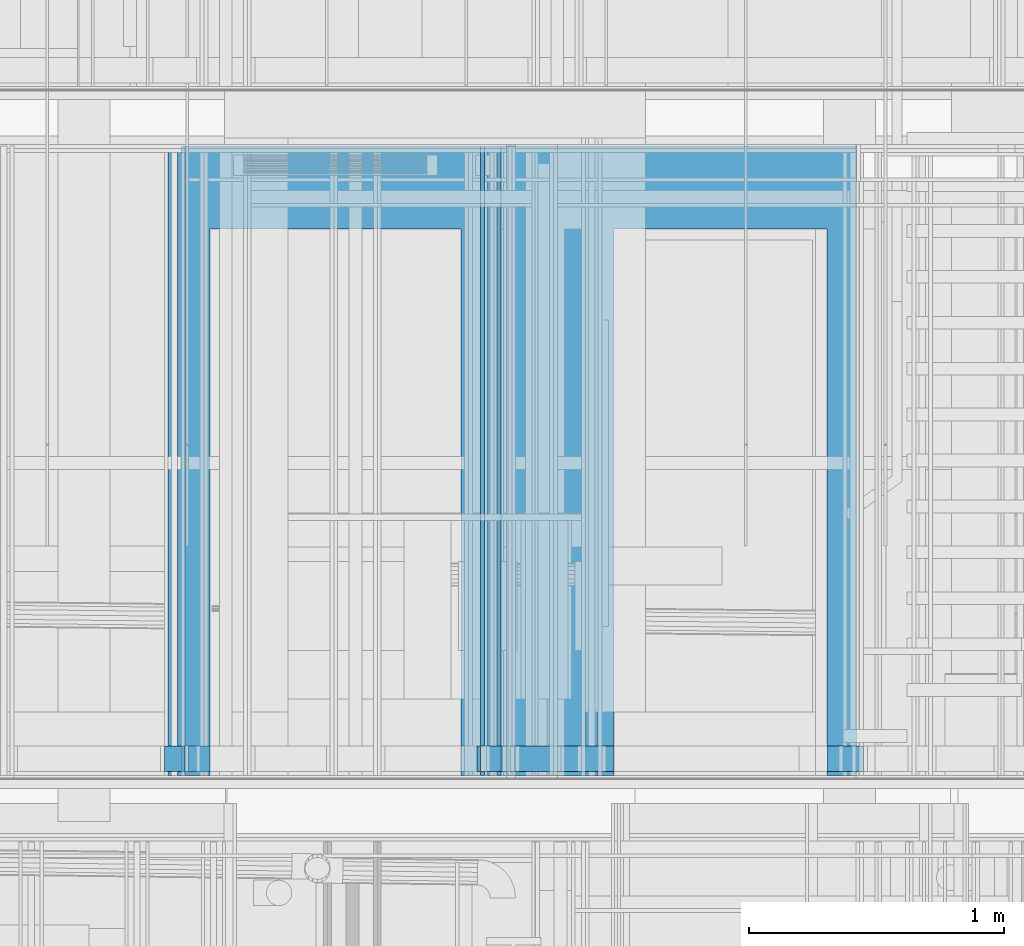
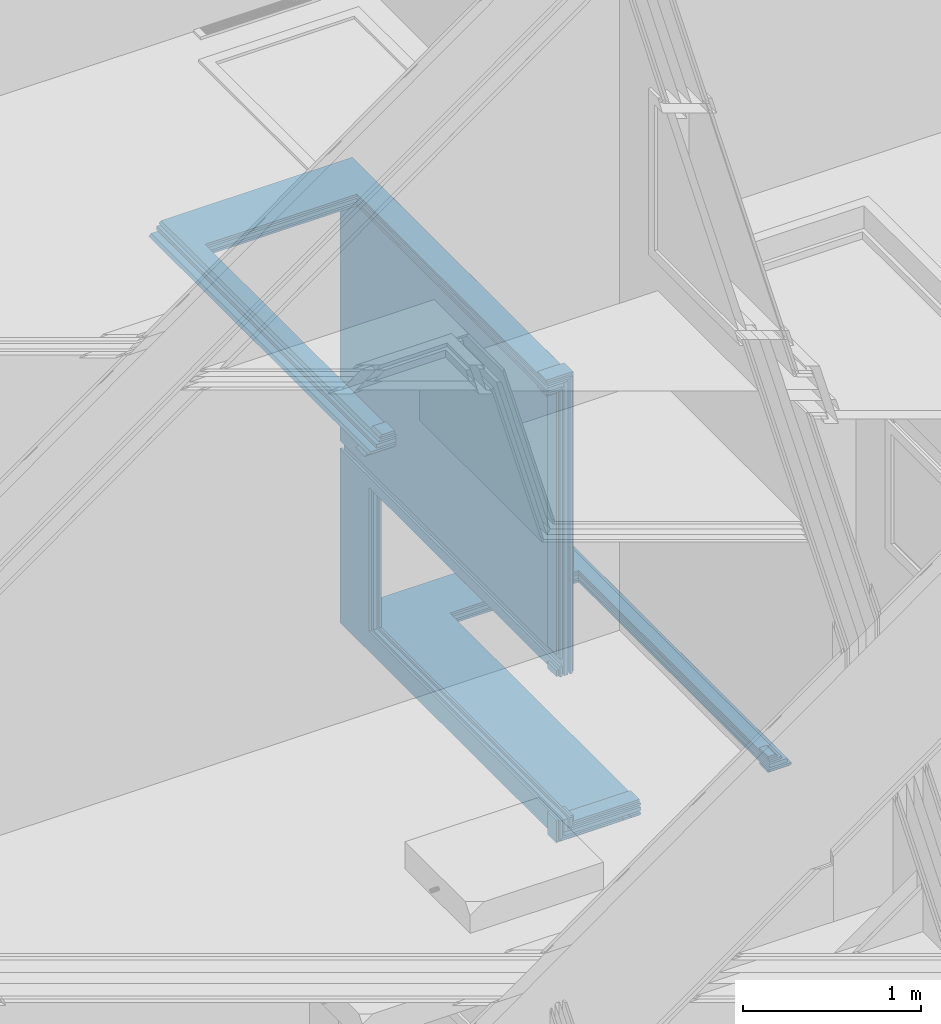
# One storey, part 143 of 583: 19 building element parts, 3 openings, 3 elements without a shape of their own.
"""IFC2X3 building model written with IfcOpenShell, lengths in metres."""

from ifc_helpers import new_model, entity, si_unit, converted_unit, derived_unit, money_unit, direction, frame, frame_2d, origin_with_axes, place, context, subcontext, project, spatial, polyline, rectangle, outline, extrude, material, type_object, element, aggregate, save


model = new_model("IFC2X3")

# Units and contexts
model_context = context("Model", 3, precision=1e-05, world=origin_with_axes(), true_north=direction((0.0, 1.0)))
body_context = subcontext(model_context, "Body", "Model", "MODEL_VIEW", scale=1.0)
ifc_project = project(units=[si_unit("LENGTHUNIT", "METRE"), si_unit("AREAUNIT", "SQUARE_METRE"), si_unit("VOLUMEUNIT", "CUBIC_METRE"), si_unit("ABSORBEDDOSEUNIT", "GRAY"), si_unit("AMOUNTOFSUBSTANCEUNIT", "MOLE"), si_unit("DOSEEQUIVALENTUNIT", "SIEVERT"), si_unit("ELECTRICCAPACITANCEUNIT", "FARAD"), si_unit("ELECTRICCHARGEUNIT", "COULOMB"), si_unit("ELECTRICCONDUCTANCEUNIT", "SIEMENS"), si_unit("ELECTRICCURRENTUNIT", "AMPERE"), si_unit("ELECTRICRESISTANCEUNIT", "OHM"), si_unit("ELECTRICVOLTAGEUNIT", "VOLT"), si_unit("ENERGYUNIT", "JOULE"), si_unit("FORCEUNIT", "NEWTON"), si_unit("FREQUENCYUNIT", "HERTZ"), si_unit("ILLUMINANCEUNIT", "LUX"), si_unit("INDUCTANCEUNIT", "HENRY"), si_unit("LUMINOUSFLUXUNIT", "LUMEN"), si_unit("LUMINOUSINTENSITYUNIT", "CANDELA"), si_unit("MAGNETICFLUXDENSITYUNIT", "TESLA"), si_unit("MAGNETICFLUXUNIT", "WEBER"), si_unit("MASSUNIT", "GRAM"), converted_unit("PLANEANGLEUNIT", "degree", entity("IfcReal", 0.0174532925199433), si_unit("PLANEANGLEUNIT", "RADIAN"), dimensions=[0, 0, 0, 0, 0, 0, 0]), si_unit("POWERUNIT", "WATT"), si_unit("PRESSUREUNIT", "PASCAL"), si_unit("RADIOACTIVITYUNIT", "BECQUEREL"), si_unit("SOLIDANGLEUNIT", "STERADIAN"), si_unit("THERMODYNAMICTEMPERATUREUNIT", "KELVIN"), si_unit("TIMEUNIT", "SECOND"), derived_unit("ACCELERATIONUNIT", [(si_unit("LENGTHUNIT", "METRE"), 1), (si_unit("TIMEUNIT", "SECOND"), -2)]), derived_unit("ANGULARVELOCITYUNIT", [(converted_unit("PLANEANGLEUNIT", "degree", entity("IfcReal", 0.0174532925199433), si_unit("PLANEANGLEUNIT", "RADIAN"), dimensions=[0, 0, 0, 0, 0, 0, 0]), 1), (si_unit("TIMEUNIT", "SECOND"), -1)]), derived_unit("CURVATUREUNIT", [(converted_unit("PLANEANGLEUNIT", "degree", entity("IfcReal", 0.0174532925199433), si_unit("PLANEANGLEUNIT", "RADIAN"), dimensions=[0, 0, 0, 0, 0, 0, 0]), 1), (si_unit("LENGTHUNIT", "METRE"), -1)]), derived_unit("DYNAMICVISCOSITYUNIT", [(si_unit("PRESSUREUNIT", "PASCAL"), 1), (si_unit("TIMEUNIT", "SECOND"), 1)]), derived_unit("HEATFLUXDENSITYUNIT", [(si_unit("POWERUNIT", "WATT"), 1), (si_unit("LENGTHUNIT", "METRE"), -2)]), derived_unit("HEATINGVALUEUNIT", [(si_unit("ENERGYUNIT", "JOULE"), 1), (si_unit("MASSUNIT", "GRAM"), -1)]), derived_unit("INTEGERCOUNTRATEUNIT", [(si_unit("TIMEUNIT", "SECOND"), -1)]), derived_unit("IONCONCENTRATIONUNIT", [(si_unit("MASSUNIT", "GRAM"), 1), (si_unit("VOLUMEUNIT", "CUBIC_METRE"), -1)]), derived_unit("ISOTHERMALMOISTURECAPACITYUNIT", [(si_unit("VOLUMEUNIT", "CUBIC_METRE"), 1), (si_unit("MASSUNIT", "GRAM"), -1)]), derived_unit("KINEMATICVISCOSITYUNIT", [(si_unit("AREAUNIT", "SQUARE_METRE"), 1), (si_unit("TIMEUNIT", "SECOND"), -1)]), derived_unit("LINEARFORCEUNIT", [(si_unit("FORCEUNIT", "NEWTON"), 1), (si_unit("LENGTHUNIT", "METRE"), -1)]), derived_unit("LINEARMOMENTUNIT", [(si_unit("FORCEUNIT", "NEWTON"), 1), (si_unit("LENGTHUNIT", "METRE"), -1)]), derived_unit("LINEARSTIFFNESSUNIT", [(si_unit("FORCEUNIT", "NEWTON"), 1), (si_unit("LENGTHUNIT", "METRE"), -1)]), derived_unit("LINEARVELOCITYUNIT", [(si_unit("LENGTHUNIT", "METRE"), 1), (si_unit("TIMEUNIT", "SECOND"), -1)]), derived_unit("LUMINOUSINTENSITYDISTRIBUTIONUNIT", [(si_unit("LUMINOUSINTENSITYUNIT", "CANDELA"), 1), (si_unit("LUMINOUSFLUXUNIT", "LUMEN"), -1)]), derived_unit("MASSDENSITYUNIT", [(si_unit("MASSUNIT", "GRAM"), 1), (si_unit("VOLUMEUNIT", "CUBIC_METRE"), -1)]), derived_unit("MASSFLOWRATEUNIT", [(si_unit("MASSUNIT", "GRAM"), 1), (si_unit("TIMEUNIT", "SECOND"), -1)]), derived_unit("MASSPERLENGTHUNIT", [(si_unit("MASSUNIT", "GRAM"), 1), (si_unit("LENGTHUNIT", "METRE"), -1)]), derived_unit("MODULUSOFELASTICITYUNIT", [(si_unit("FORCEUNIT", "NEWTON"), 1), (si_unit("AREAUNIT", "SQUARE_METRE"), -1)]), derived_unit("MODULUSOFLINEARSUBGRADEREACTIONUNIT", [(si_unit("FORCEUNIT", "NEWTON"), 1), (si_unit("LENGTHUNIT", "METRE"), -2)]), derived_unit("MODULUSOFROTATIONALSUBGRADEREACTIONUNIT", [(si_unit("FORCEUNIT", "NEWTON"), 1), (si_unit("LENGTHUNIT", "METRE"), 1)]), derived_unit("MODULUSOFSUBGRADEREACTIONUNIT", [(si_unit("FORCEUNIT", "NEWTON"), 1), (si_unit("VOLUMEUNIT", "CUBIC_METRE"), -1)]), derived_unit("MOISTUREDIFFUSIVITYUNIT", [(si_unit("VOLUMEUNIT", "CUBIC_METRE"), 1), (si_unit("TIMEUNIT", "SECOND"), -1)]), derived_unit("MOLECULARWEIGHTUNIT", [(si_unit("MASSUNIT", "GRAM"), 1), (si_unit("AMOUNTOFSUBSTANCEUNIT", "MOLE"), -1)]), derived_unit("PLANARFORCEUNIT", [(si_unit("FORCEUNIT", "NEWTON"), 1), (si_unit("LENGTHUNIT", "METRE"), -2)]), derived_unit("ROTATIONALFREQUENCYUNIT", [(si_unit("TIMEUNIT", "SECOND"), -1)]), derived_unit("ROTATIONALMASSUNIT", [(si_unit("MASSUNIT", "GRAM"), 1), (si_unit("LENGTHUNIT", "METRE"), 2)]), derived_unit("ROTATIONALSTIFFNESSUNIT", [(si_unit("FORCEUNIT", "NEWTON"), 1), (si_unit("LENGTHUNIT", "METRE"), 1), (converted_unit("PLANEANGLEUNIT", "degree", entity("IfcReal", 0.0174532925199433), si_unit("PLANEANGLEUNIT", "RADIAN"), dimensions=[0, 0, 0, 0, 0, 0, 0]), -1)]), derived_unit("SECTIONAREAINTEGRALUNIT", [(si_unit("LENGTHUNIT", "METRE"), 5)]), derived_unit("SECTIONMODULUSUNIT", [(si_unit("LENGTHUNIT", "METRE"), 3)]), derived_unit("SHEARMODULUSUNIT", [(si_unit("FORCEUNIT", "NEWTON"), 1), (si_unit("AREAUNIT", "SQUARE_METRE"), -1)]), derived_unit("SOUNDPOWERUNIT", [(si_unit("ENERGYUNIT", "JOULE"), 1), (si_unit("TIMEUNIT", "SECOND"), -1)]), derived_unit("SPECIFICHEATCAPACITYUNIT", [(si_unit("FORCEUNIT", "NEWTON"), 1), (si_unit("MASSUNIT", "GRAM"), -1), (si_unit("THERMODYNAMICTEMPERATUREUNIT", "KELVIN"), -1)]), derived_unit("TEMPERATUREGRADIENTUNIT", [(si_unit("THERMODYNAMICTEMPERATUREUNIT", "KELVIN"), 1), (si_unit("LENGTHUNIT", "METRE"), -1)]), derived_unit("THERMALADMITTANCEUNIT", [(si_unit("POWERUNIT", "WATT"), 1), (si_unit("AREAUNIT", "SQUARE_METRE"), -1), (si_unit("THERMODYNAMICTEMPERATUREUNIT", "KELVIN"), -1)]), derived_unit("THERMALCONDUCTANCEUNIT", [(si_unit("POWERUNIT", "WATT"), 1), (si_unit("LENGTHUNIT", "METRE"), -1), (si_unit("THERMODYNAMICTEMPERATUREUNIT", "KELVIN"), -1)]), derived_unit("THERMALEXPANSIONCOEFFICIENTUNIT", [(si_unit("THERMODYNAMICTEMPERATUREUNIT", "KELVIN"), -1)]), derived_unit("THERMALRESISTANCEUNIT", [(si_unit("AREAUNIT", "SQUARE_METRE"), 1), (si_unit("POWERUNIT", "WATT"), -1)]), derived_unit("THERMALTRANSMITTANCEUNIT", [(si_unit("POWERUNIT", "WATT"), 1), (si_unit("AREAUNIT", "SQUARE_METRE"), -1), (si_unit("THERMODYNAMICTEMPERATUREUNIT", "KELVIN"), -1)]), derived_unit("TORQUEUNIT", [(si_unit("FORCEUNIT", "NEWTON"), 1), (si_unit("LENGTHUNIT", "METRE"), 1)]), derived_unit("VAPORPERMEABILITYUNIT", [(si_unit("MASSUNIT", "GRAM"), 1), (si_unit("TIMEUNIT", "SECOND"), -1)]), derived_unit("VOLUMETRICFLOWRATEUNIT", [(si_unit("VOLUMEUNIT", "CUBIC_METRE"), 1), (si_unit("TIMEUNIT", "SECOND"), -1)]), derived_unit("WARPINGCONSTANTUNIT", [(si_unit("LENGTHUNIT", "METRE"), 6)]), derived_unit("WARPINGMOMENTUNIT", [(si_unit("FORCEUNIT", "NEWTON"), 1), (si_unit("LENGTHUNIT", "METRE"), 2)]), money_unit("GBP")], contexts=[model_context])

# Site, building, storey
site_placement = place(None, origin_with_axes())
site = spatial("IfcSite", under=ifc_project, at=site_placement, Name="Site", CompositionType="ELEMENT")
building_placement = place(site_placement, origin_with_axes())
building = spatial("IfcBuilding", under=site, at=building_placement, Name="Building01", CompositionType="ELEMENT")
storey_placement = place(building_placement, frame((0.0, 0.0, 20.78), z_axis=(0.0, 0.0, 1.0), x_axis=(1.0, 0.0, 0.0)))
storey = spatial("IfcBuildingStorey", under=building, at=storey_placement, Name="RL", CompositionType="ELEMENT", Elevation=20.78)

# Wall, opening, building element parts
wall_type = type_object("IfcWallType", Name="SHE_A-Walls_Type05b_Partition_80mm", PredefinedType="NOTDEFINED")
wall_1_placement = place(storey_placement, frame((6.252939, 14.98, -17.713024), z_axis=(0.0, 1.0, 0.0), x_axis=(-1.0, 0.0, 0.0)))
wall_1 = element("IfcWall", 1, at=wall_1_placement, inside=storey, type_object=wall_type, Name="5B", ObjectType="SHE_A-Walls_Type05b_Partition_80mm")
opening_1_placement = place(wall_1_placement, frame((0.115964, -0.027, 0.0), z_axis=(0.0, 0.0, 1.0), x_axis=(1.0, 0.0, 0.0)))
element("IfcOpeningElement", 2, at=opening_1_placement, cuts=wall_1, Name="Opening", ObjectType="Opening", context=body_context, shape_type="SweptSolid", body=[
    extrude(rectangle(XDim=0.834, YDim=2.142, at=frame_2d((0.417, 1.071), x_axis=(-1.0, 0.0))), frame((0.0, 3.507495, 0.0), z_axis=(0.0, -1.0, 0.0), x_axis=(1.0, 0.0, 0.0)), (0.0, 0.0, 1.0), 7.014989),
])
ifc_material_1 = material(Name="A_BSUK_Insulation")
placement_1 = place(wall_1_placement, origin_with_axes())
building_element_part_1 = element("IfcBuildingElementPart", 3, at=placement_1, material=ifc_material_1, Name="1", context=body_context, shape_type="SweptSolid", body=[
    extrude(rectangle(XDim=1.446, YDim=0.025, at=frame_2d((0.723, 0.0125), x_axis=(-1.0, 0.0))), origin_with_axes(), (0.0, 0.0, 1.0), 2.468),
])
ifc_material_2 = material(Name="A_BSUK_Walls_Timber")
building_element_part_2 = element("IfcBuildingElementPart", 4, at=placement_1, material=ifc_material_2, Name="2", context=body_context, shape_type="SweptSolid", body=[
    extrude(outline(polyline([(1.378, 0.068), (0.068, 0.068), (0.053, 0.053), (1.393, 0.053), (1.378, 0.068)])), frame((0.0, 0.0, 0.015), z_axis=(0.0, 0.0, 1.0), x_axis=(1.0, 0.0, 0.0)), (0.0, 0.0, 1.0), 0.1),
])
ifc_material_3 = material(Name="A_BSUK_WallInternal_Finishes_Plasterboard")
building_element_part_3 = element("IfcBuildingElementPart", 5, at=placement_1, material=ifc_material_3, Name="3", context=body_context, shape_type="SweptSolid", body=[
    extrude(outline(polyline([(1.393, 0.053), (0.038, 0.053), (0.038, 0.038), (1.408, 0.038), (1.393, 0.053)])), origin_with_axes(), (0.0, 0.0, 1.0), 2.468),
])
building_element_part_4 = element("IfcBuildingElementPart", 6, at=placement_1, material=ifc_material_3, Name="4", context=body_context, shape_type="SweptSolid", body=[
    extrude(rectangle(XDim=1.039964, YDim=0.015, at=frame_2d((0.492982, -0.0195), x_axis=(-1.0, 0.0))), origin_with_axes(), (0.0, 0.0, 1.0), 2.468),
])
building_element_part_5 = element("IfcBuildingElementPart", 7, at=placement_1, material=ifc_material_2, Name="5", context=body_context, shape_type="SweptSolid", body=[
    extrude(rectangle(XDim=1.024964, YDim=0.015, at=frame_2d((0.485482, -0.0345), x_axis=(-1.0, 0.0))), frame((0.0, 0.0, 0.015), z_axis=(0.0, 0.0, 1.0), x_axis=(1.0, 0.0, 0.0)), (0.0, 0.0, 1.0), 0.1),
])
building_element_part_6 = element("IfcBuildingElementPart", 8, at=placement_1, material=ifc_material_2, Name="6", context=body_context, shape_type="SweptSolid", body=[
    extrude(outline(polyline([(1.473, -0.027), (-0.027, -0.027), (-0.027, -0.042), (1.488, -0.042), (1.473, -0.027)])), frame((0.0, 0.0, 0.015), z_axis=(0.0, 0.0, 1.0), x_axis=(1.0, 0.0, 0.0)), (0.0, 0.0, 1.0), 0.1),
])
building_element_part_7 = element("IfcBuildingElementPart", 9, at=placement_1, material=ifc_material_3, Name="7", context=body_context, shape_type="SweptSolid", body=[
    extrude(outline(polyline([(1.458, -0.012), (1.062964, -0.012), (1.062964, -0.027), (1.473, -0.027), (1.458, -0.012)])), origin_with_axes(), (0.0, 0.0, 1.0), 2.468),
])
aggregate(wall_1, [building_element_part_1, building_element_part_2, building_element_part_3, building_element_part_4, building_element_part_5, building_element_part_6, building_element_part_7])

wall_2_placement = place(storey_placement, frame((4.806939, 14.98, -17.688024), z_axis=(0.0, 1.0, 0.0), x_axis=(0.0, 0.0, 1.0)))
wall_2 = element("IfcWall", 10, at=wall_2_placement, inside=storey, type_object=wall_type, Name="5B", ObjectType="SHE_A-Walls_Type05b_Partition_80mm")
opening_2_placement = place(wall_2_placement, frame((0.086, -0.027, 0.0), z_axis=(0.0, 0.0, 1.0), x_axis=(1.0, 0.0, 0.0)))
element("IfcOpeningElement", 11, at=opening_2_placement, cuts=wall_2, Name="Opening", ObjectType="Opening", context=body_context, shape_type="SweptSolid", body=[
    extrude(rectangle(XDim=0.984, YDim=2.142, at=frame_2d((0.492, 1.071), x_axis=(-1.0, 0.0))), frame((0.0, 4.307742, 0.0), z_axis=(0.0, -1.0, 0.0), x_axis=(1.0, 0.0, 0.0)), (0.0, 0.0, 1.0), 8.615485),
])
placement_2 = place(wall_2_placement, origin_with_axes())
building_element_part_8 = element("IfcBuildingElementPart", 12, at=placement_2, material=ifc_material_1, Name="1", context=body_context, shape_type="SweptSolid", body=[
    extrude(rectangle(XDim=3.080122, YDim=0.025, at=frame_2d((1.540061, 0.0125), x_axis=(-1.0, 0.0))), origin_with_axes(), (0.0, 0.0, 1.0), 2.468),
])
building_element_part_9 = element("IfcBuildingElementPart", 13, at=placement_2, material=ifc_material_2, Name="2", context=body_context, shape_type="SweptSolid", body=[
    extrude(outline(polyline([(3.123122, 0.068), (0.043, 0.068), (0.028, 0.053), (3.108122, 0.053), (3.123122, 0.068)])), frame((0.0, 0.0, 0.015), z_axis=(0.0, 0.0, 1.0), x_axis=(1.0, 0.0, 0.0)), (0.0, 0.0, 1.0), 0.1),
])
building_element_part_10 = element("IfcBuildingElementPart", 14, at=placement_2, material=ifc_material_3, Name="3", context=body_context, shape_type="SweptSolid", body=[
    extrude(outline(polyline([(3.108122, 0.053), (0.028, 0.053), (0.013, 0.038), (3.093122, 0.038), (3.108122, 0.053)])), origin_with_axes(), (0.0, 0.0, 1.0), 2.468),
])
building_element_part_11 = element("IfcBuildingElementPart", 15, at=placement_2, material=ifc_material_3, Name="4", context=body_context, shape_type="SweptSolid", body=[
    extrude(outline(polyline([(1.143, -0.012), (-0.037, -0.012), (-0.052, -0.027), (1.143, -0.027), (1.143, -0.012)])), origin_with_axes(), (0.0, 0.0, 1.0), 2.468),
])
building_element_part_12 = element("IfcBuildingElementPart", 16, at=placement_2, material=ifc_material_2, Name="5", context=body_context, shape_type="SweptSolid", body=[
    extrude(outline(polyline([(1.113, -0.027), (-0.052, -0.027), (-0.067, -0.042), (1.113, -0.042), (1.113, -0.027)])), frame((0.0, 0.0, 0.015), z_axis=(0.0, 0.0, 1.0), x_axis=(1.0, 0.0, 0.0)), (0.0, 0.0, 1.0), 0.1),
])
building_element_part_13 = element("IfcBuildingElementPart", 17, at=placement_2, material=ifc_material_2, Name="6", context=body_context, shape_type="SweptSolid", body=[
    extrude(outline(polyline([(3.028122, -0.027), (1.223, -0.027), (1.223, -0.042), (3.013122, -0.042), (3.028122, -0.027)])), frame((0.0, 0.0, 0.015), z_axis=(0.0, 0.0, 1.0), x_axis=(1.0, 0.0, 0.0)), (0.0, 0.0, 1.0), 0.1),
])
building_element_part_14 = element("IfcBuildingElementPart", 18, at=placement_2, material=ifc_material_3, Name="7", context=body_context, shape_type="SweptSolid", body=[
    extrude(outline(polyline([(3.043122, -0.012), (1.193, -0.012), (1.193, -0.027), (3.028122, -0.027), (3.043122, -0.012)])), origin_with_axes(), (0.0, 0.0, 1.0), 2.468),
])
aggregate(wall_2, [building_element_part_8, building_element_part_9, building_element_part_10, building_element_part_11, building_element_part_12, building_element_part_13, building_element_part_14])

wall_3_placement = place(storey_placement, frame((4.806939, 14.98, -14.632902), z_axis=(0.0, 1.0, 0.0), x_axis=(-1.0, 0.0, 0.0)))
wall_3 = element("IfcWall", 19, at=wall_3_placement, inside=storey, type_object=wall_type, Name="5B", ObjectType="SHE_A-Walls_Type05b_Partition_80mm")
opening_3_placement = place(wall_3_placement, frame((0.105, -0.027, 0.0), z_axis=(0.0, 0.0, 1.0), x_axis=(1.0, 0.0, 0.0)))
element("IfcOpeningElement", 20, at=opening_3_placement, cuts=wall_3, Name="Opening", ObjectType="Opening", context=body_context, shape_type="SweptSolid", body=[
    extrude(rectangle(XDim=0.984, YDim=2.142, at=frame_2d((0.492, 1.071), x_axis=(1.0, 0.0))), frame((0.0, 3.031364, 0.0), z_axis=(0.0, -1.0, 0.0), x_axis=(1.0, 0.0, 0.0)), (0.0, 0.0, 1.0), 6.062728),
])
placement_3 = place(wall_3_placement, origin_with_axes())
building_element_part_15 = element("IfcBuildingElementPart", 21, at=placement_3, material=ifc_material_1, Name="1", context=body_context, shape_type="SweptSolid", body=[
    extrude(rectangle(XDim=1.215, YDim=0.025, at=frame_2d((0.6075, 0.0125), x_axis=(-1.0, 0.0))), origin_with_axes(), (0.0, 0.0, 1.0), 2.468),
])
building_element_part_16 = element("IfcBuildingElementPart", 22, at=placement_3, material=ifc_material_2, Name="2", context=body_context, shape_type="SweptSolid", body=[
    extrude(outline(polyline([(1.172, 0.068), (-0.068, 0.068), (-0.053, 0.053), (1.187, 0.053), (1.172, 0.068)])), frame((0.0, 0.0, 0.015), z_axis=(0.0, 0.0, 1.0), x_axis=(1.0, 0.0, 0.0)), (0.0, 0.0, 1.0), 0.1),
])
building_element_part_17 = element("IfcBuildingElementPart", 23, at=placement_3, material=ifc_material_3, Name="3", context=body_context, shape_type="SweptSolid", body=[
    extrude(outline(polyline([(1.187, 0.053), (-0.053, 0.053), (-0.038, 0.038), (1.202, 0.038), (1.187, 0.053)])), origin_with_axes(), (0.0, 0.0, 1.0), 2.468),
])
building_element_part_18 = element("IfcBuildingElementPart", 24, at=placement_3, material=ifc_material_3, Name="4", context=body_context, shape_type="SweptSolid", body=[
    extrude(outline(polyline([(1.252, -0.012), (0.012, -0.012), (0.027, -0.027), (1.267, -0.027), (1.252, -0.012)])), origin_with_axes(), (0.0, 0.0, 1.0), 2.468),
])
building_element_part_19 = element("IfcBuildingElementPart", 25, at=placement_3, material=ifc_material_2, Name="5", context=body_context, shape_type="SweptSolid", body=[
    extrude(outline(polyline([(1.267, -0.027), (0.027, -0.027), (0.042, -0.042), (1.282, -0.042), (1.267, -0.027)])), frame((0.0, 0.0, 0.015), z_axis=(0.0, 0.0, 1.0), x_axis=(1.0, 0.0, 0.0)), (0.0, 0.0, 1.0), 0.1),
])
aggregate(wall_3, [building_element_part_15, building_element_part_16, building_element_part_17, building_element_part_18, building_element_part_19])

save(model, "model.ifc")
